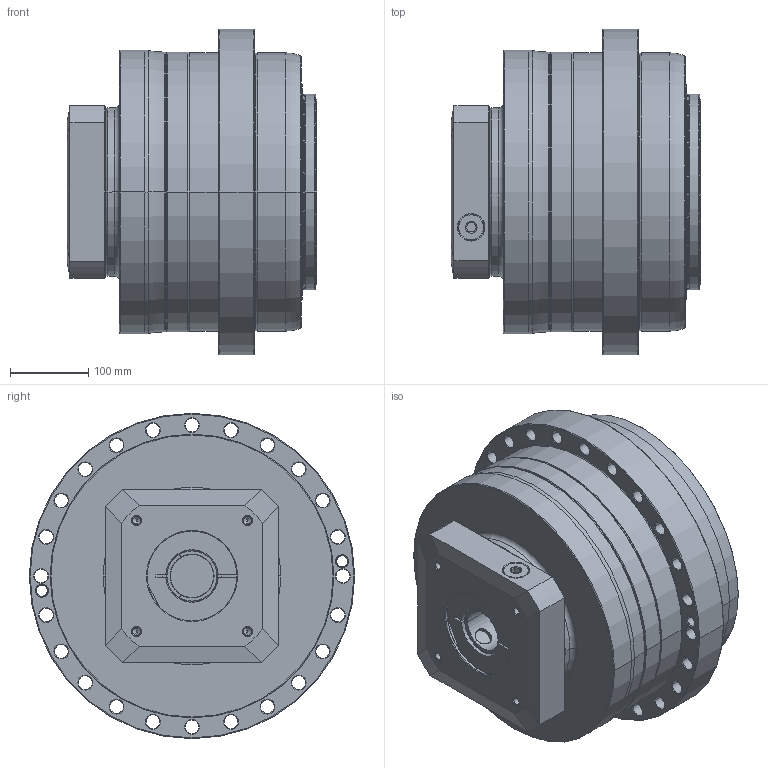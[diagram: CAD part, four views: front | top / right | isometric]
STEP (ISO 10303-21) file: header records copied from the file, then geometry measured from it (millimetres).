
FILE_DESCRIPTION((''),'2;1');
FILE_NAME('AP355_1ST_55-P0409C50101_ASM','2020-12-23T',('d01226'),(''),'PRO/ENGINEER BY PARAMETRIC TECHNOLOGY CORPORATION, 2015240','PRO/ENGINEER BY PARAMETRIC TECHNOLOGY CORPORATION, 2015240','');
FILE_SCHEMA(('CONFIG_CONTROL_DESIGN'));
Length unit declared in the file: millimetre
Products named in the file (9): P0276101003; P0357101103; P1338110101; P0503C00016; P0942102001; P1222100001; P0409C50101; 21711426021; AP355_1ST_55-P0409C50101_ASM
Assembly tree (8 placements, depth 2):
  AP355_1ST_55-P0409C50101_ASM
    P0276101003
    P0357101103
    P1338110101
    P0503C00016
    P0942102001
    P1222100001
    P0409C50101
    21711426021
Bounding box: 318.5 x 415 x 415 mm (x, y, z)
Volume: 21832630.8 mm3; surface area: 1392628.2 mm2
Topology: 9 solids, 34 shells, 612 faces, 1423 edges, 880 vertices
Faces by surface type: cylinder 256, cone 170, plane 106, torus 68, bspline 12
Entity records: 22415 total; most frequent: CARTESIAN_POINT 7644, DIRECTION 3395, ORIENTED_EDGE 2730, AXIS2_PLACEMENT_3D 1452, EDGE_CURVE 1415, VERTEX_POINT 880, CIRCLE 825, EDGE_LOOP 769
